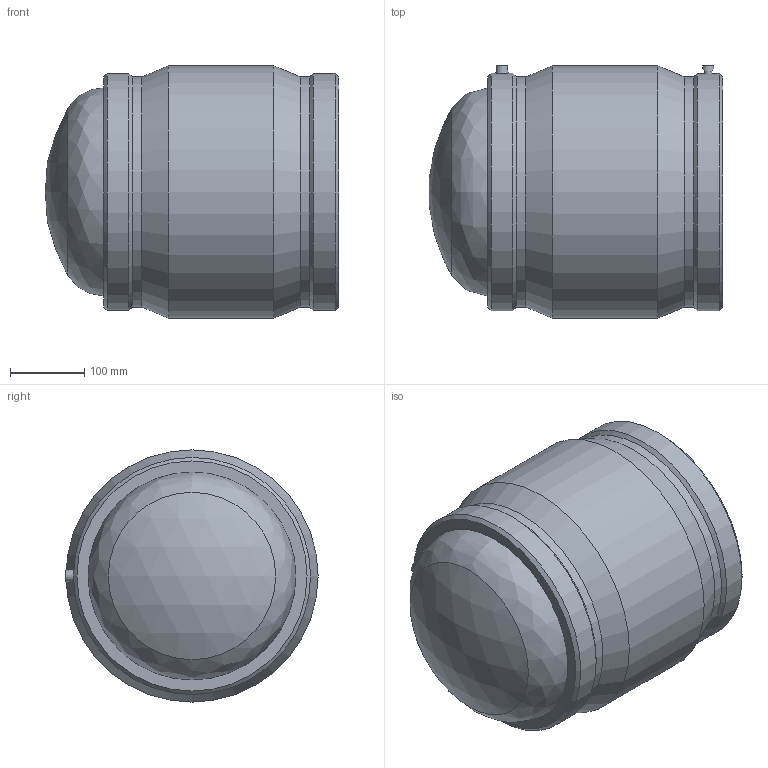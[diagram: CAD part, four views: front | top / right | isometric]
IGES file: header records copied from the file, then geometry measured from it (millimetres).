
Global section: file name: 491204280.ipt; native system: Autodesk Inventor 2015; preprocessor: unknown; author: KIM; date: 20171106.093803; units: millimetre
Bounding box: 395.11 x 340 x 340 mm (x, y, z)
Volume: 12674738.4 mm3; surface area: 796961.3 mm2
Topology: 2 solids, 3 shells, 40 faces, 84 edges, 58 vertices
Faces by surface type: plane 12, revolution 11, cylinder 8, cone 8, sphere 1
Full cylindrical faces by diameter (mm): 4 x2, 280 x1, 310.012 x2, 319.6 x2, 340 x1
